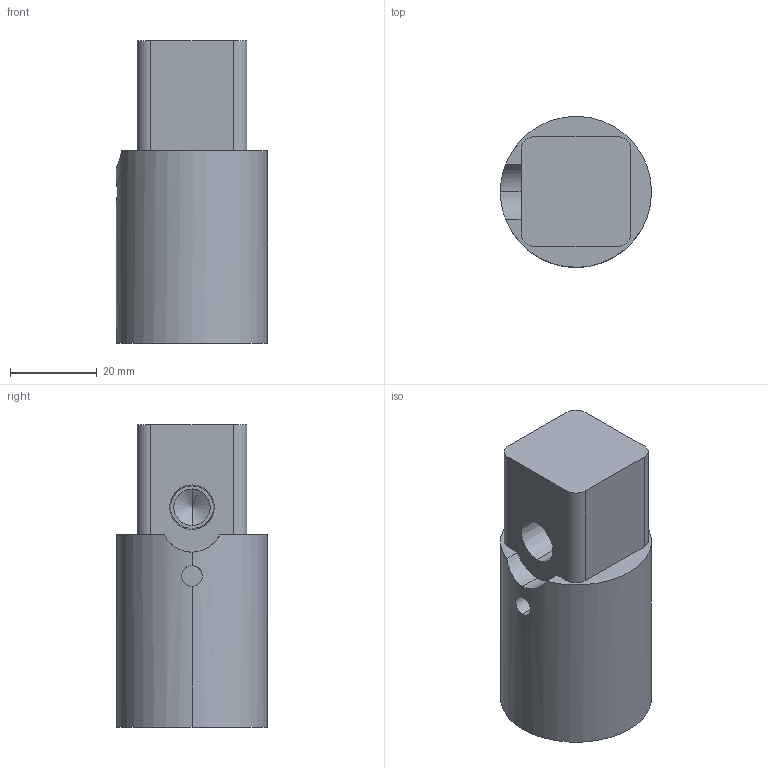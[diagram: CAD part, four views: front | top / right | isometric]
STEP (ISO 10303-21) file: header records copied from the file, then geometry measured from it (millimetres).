
FILE_DESCRIPTION (( 'STEP AP203' ), '1' );
FILE_NAME ('2 inch Seal Holder Base.STEP', '2020-02-20T05:33:32', ( '' ), ( '' ), 'SwSTEP 2.0', 'SolidWorks 2017', '' );
FILE_SCHEMA (( 'CONFIG_CONTROL_DESIGN' ));
Length unit declared in the file: inch
Products named in the file (1): 2 inch Seal Holder Base
Bounding box: 34.87 x 34.87 x 69.85 mm (x, y, z)
Volume: 53586.2 mm3; surface area: 11342.1 mm2
Topology: 1 solids, 1 shells, 39 faces, 92 edges, 56 vertices
Faces by surface type: cylinder 20, plane 11, cone 8
Entity records: 1327 total; most frequent: CARTESIAN_POINT 334, DIRECTION 204, ORIENTED_EDGE 180, EDGE_CURVE 90, AXIS2_PLACEMENT_3D 80, VERTEX_POINT 56, LINE 44, VECTOR 44
